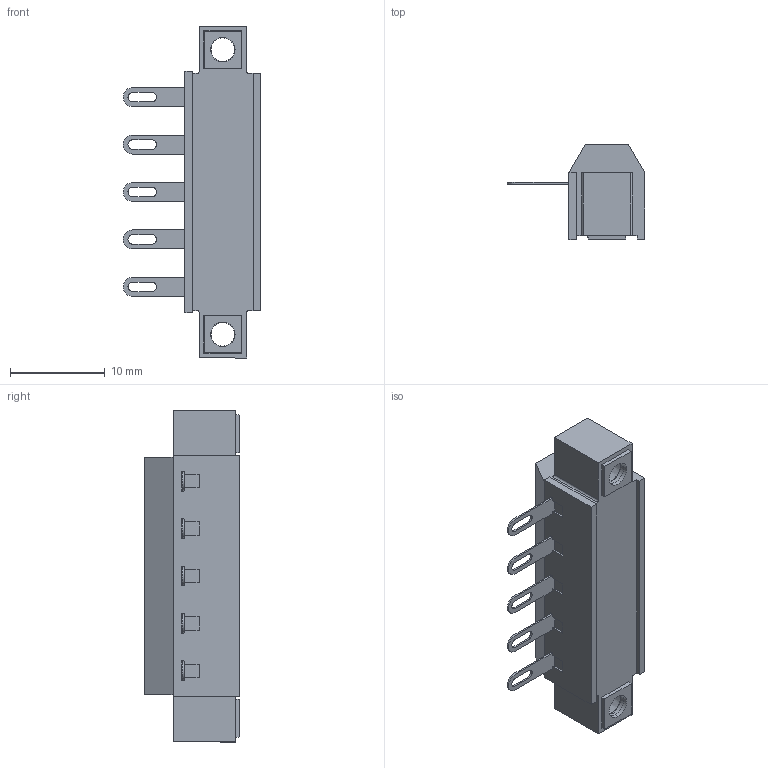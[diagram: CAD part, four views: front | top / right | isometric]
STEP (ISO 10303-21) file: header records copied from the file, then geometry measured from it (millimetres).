
FILE_DESCRIPTION (( 'STEP AP214' ), '1' );
FILE_NAME ('951-A-LFDS-05.STEP', '2008-04-15T05:31:18', ( ' ' ), ( '' ), 'SwSTEP 2.0', 'SolidWorks 2007', '' );
FILE_SCHEMA (( 'AUTOMOTIVE_DESIGN' ));
Length unit declared in the file: millimetre
Products named in the file (1): 951-A-LFDS-05
Bounding box: 14.5 x 10 x 35 mm (x, y, z)
Volume: 1800.1 mm3; surface area: 1968.2 mm2
Topology: 1 solids, 1 shells, 431 faces, 1402 edges, 932 vertices
Faces by surface type: plane 336, cylinder 63, cone 18, bspline 14
Entity records: 16156 total; most frequent: CARTESIAN_POINT 3795, ORIENTED_EDGE 2804, DIRECTION 2335, EDGE_CURVE 1402, VECTOR 999, LINE 999, VERTEX_POINT 932, AXIS2_PLACEMENT_3D 668
